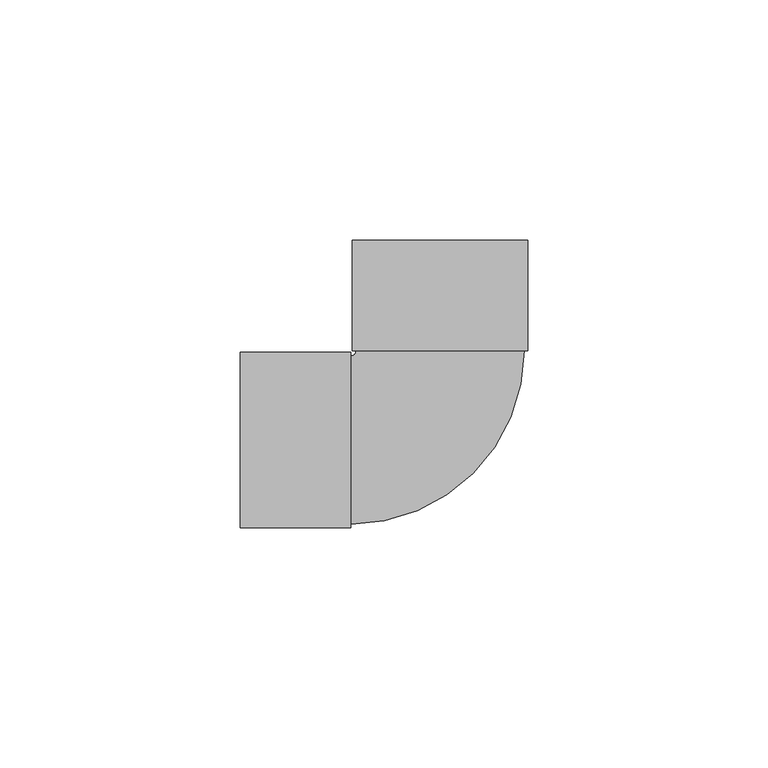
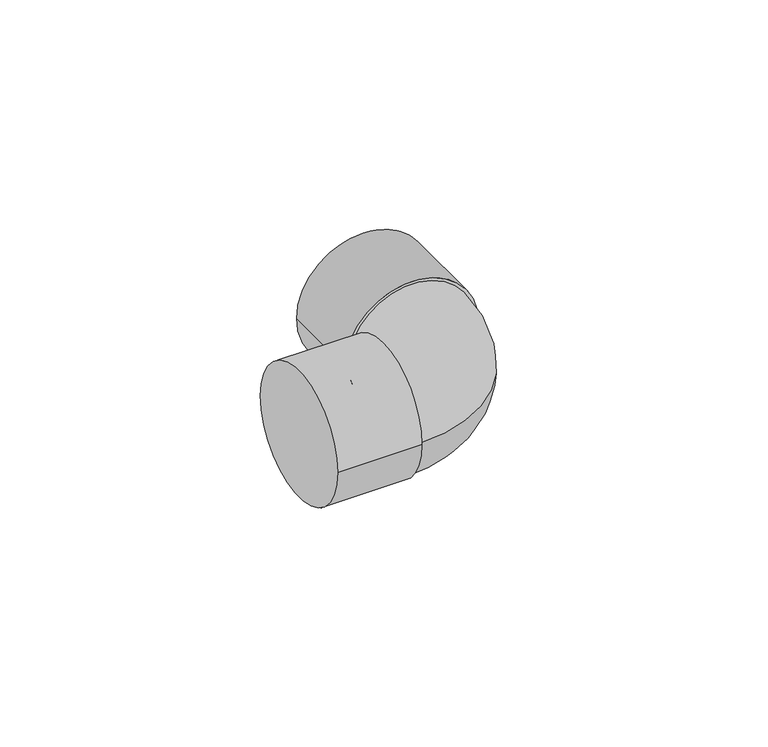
"""IFC4 building model written with IfcOpenShell, lengths in millimetres: pipe fitting geometry, Cotovelo - Soldado - CU : Padrão."""

from ifc_helpers import new_model, si_unit, point, frame, origin, place, context, project, spatial, circle_curve, ellipse_curve, trimmed, source, transform, mapped, element, save
from ifc_brep_helpers import plane_surface, cylinder_surface, revolved_surface, advanced_brep


def pipe_fitting_63a2771b(model_context):
    return source(origin(), model_context, "Body", "AdvancedBrep", [
        advanced_brep(
        [(-17.5006602, 18.5993788, 0.0), (-18.6, 17.5, 0.0), (-18.6, -17.5, 0.0), (17.4993398, 18.6006211, 0.0), (-41.6, -18.28, 0.0), (-41.6, 18.28, 0.0), (-18.6, -18.28, 0.0), (-18.6, 18.28, 0.0), (-18.2814765, 41.5993511, 0.0), (18.2785234, 41.6006488, 0.0), (-18.2806602, 18.5993512, 0.0), (18.2793398, 18.6006488, 0.0)],
        [
            (0, 1, circle_curve(frame((-18.6, 18.5993398, 0.0), z_axis=(0.0, 0.0, -1.0), x_axis=(0.0, -1.0, 0.0)), 1.0993398)),
            (1, 2, circle_curve(frame((-18.6, 0.0, 0.0), z_axis=(1.0, 0.0, 0.0), x_axis=(0.0, 1.0, 0.0)), 17.5)),
            (2, 3, circle_curve(frame((-18.6, 18.5993398, 0.0), z_axis=(0.0, 0.0, 1.0), x_axis=(0.0, -1.0, 0.0)), 36.0993398)),
            (3, 0, circle_curve(frame((-0.0006602, 18.6, 0.0), z_axis=(3.549404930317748e-05, -0.9999999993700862, 0.0), x_axis=(-0.9999999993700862, -3.549404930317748e-05, 0.0)), 17.5)),
            (0, 3, circle_curve(frame((-0.0006602, 18.6, 0.0), z_axis=(3.549404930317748e-05, -0.9999999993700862, 0.0), x_axis=(-0.9999999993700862, -3.549404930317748e-05, 0.0)), 17.5)),
            (2, 1, circle_curve(frame((-18.6, 0.0, 0.0), z_axis=(1.0, 0.0, 0.0), x_axis=(0.0, 1.0, 0.0)), 17.5)),
            (4, 5, circle_curve(frame((-41.6, 0.0, 0.0), z_axis=(-1.0, 0.0, 0.0), x_axis=(0.0, 1.0, 0.0)), 18.28)),
            (5, 4, circle_curve(frame((-41.6, 0.0, 0.0), z_axis=(-1.0, 0.0, 0.0), x_axis=(0.0, 1.0, 0.0)), 18.28)),
            (6, 7, circle_curve(frame((-18.6, 0.0, 0.0), z_axis=(1.0, 0.0, 0.0), x_axis=(0.0, 1.0, 0.0)), 18.28)),
            (7, 6, circle_curve(frame((-18.6, 0.0, 0.0), z_axis=(1.0, 0.0, 0.0), x_axis=(0.0, 1.0, 0.0)), 18.28)),
            (4, 6),
            (7, 5),
            (8, 9, circle_curve(frame((-0.0014766, 41.6, 0.0), z_axis=(-3.549404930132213e-05, 0.9999999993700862, 0.0), x_axis=(0.9999999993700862, 3.549404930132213e-05, 0.0)), 18.28)),
            (9, 8, circle_curve(frame((-0.0014766, 41.6, 0.0), z_axis=(-3.549404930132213e-05, 0.9999999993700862, 0.0), x_axis=(0.9999999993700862, 3.549404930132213e-05, 0.0)), 18.28)),
            (10, 11, circle_curve(frame((-0.0006602, 18.6, 0.0), z_axis=(3.549404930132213e-05, -0.9999999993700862, 0.0), x_axis=(0.9999999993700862, 3.549404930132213e-05, 0.0)), 18.28)),
            (11, 10, circle_curve(frame((-0.0006602, 18.6, 0.0), z_axis=(3.549404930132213e-05, -0.9999999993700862, 0.0), x_axis=(0.9999999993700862, 3.549404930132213e-05, 0.0)), 18.28)),
            (8, 10),
            (11, 9),
        ],
        [
            revolved_surface(trimmed(ellipse_curve(frame((-18.6, 0.0, 0.0), z_axis=(-1.0, 0.0, 0.0), x_axis=(0.0, 1.0, 0.0)), 17.5, 17.5), [point((-18.6, -17.5, 0.0))], [point((-18.6, 17.5, 0.0))], True, "CARTESIAN"), (-18.6, 18.5993398, 0.0), (0.0, 0.0, 1.0)),
            revolved_surface(trimmed(ellipse_curve(frame((-18.6, 0.0, 0.0), z_axis=(-1.0, 0.0, 0.0), x_axis=(0.0, 1.0, 0.0)), 17.5, 17.5), [point((-18.6, 17.5, 0.0))], [point((-18.6, -17.5, 0.0))], True, "CARTESIAN"), (-18.6, 18.5993398, 0.0), (0.0, 0.0, 1.0)),
            plane_surface(frame((-41.6, 0.0, 0.0), z_axis=(-1.0, 0.0, 0.0), x_axis=(0.0, 0.0, 1.0))),
            plane_surface(frame((-18.6, 0.0, 0.0), z_axis=(1.0, 0.0, 0.0), x_axis=(0.0, 0.0, 1.0))),
            cylinder_surface(frame((-41.6, 0.0, 0.0), z_axis=(-1.0, 0.0, 0.0), x_axis=(0.0, 1.0, 0.0)), 18.28),
            plane_surface(frame((-0.0014766, 41.6, 0.0), z_axis=(-3.549404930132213e-05, 0.9999999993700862, 0.0), x_axis=(0.0, 0.0, 1.0))),
            plane_surface(frame((-0.0006602, 18.6, 0.0), z_axis=(3.549404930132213e-05, -0.9999999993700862, 0.0), x_axis=(0.0, 0.0, 1.0))),
            cylinder_surface(frame((-0.0014766, 41.6, 0.0), z_axis=(-3.549404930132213e-05, 0.9999999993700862, 0.0), x_axis=(0.9999999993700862, 3.549404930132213e-05, 0.0)), 18.28),
        ],
        [
            (0, [[1, 2, 3, 4]]),
            (1, [[-1, 5, -3, 6]]),
            (2, [[7, 8]]),
            (3, [[9, 10], [-2, -6]]),
            (4, [[-7, 11, -10, 12]]),
            (4, [[-8, -12, -9, -11]]),
            (5, [[13, 14]]),
            (6, [[15, 16], [-4, -5]]),
            (7, [[-13, 17, -16, 18]]),
            (7, [[-14, -18, -15, -17]]),
        ],
    ),
    ])


if __name__ == "__main__":
    model = new_model("IFC4")
    model_context = context("Model", 3, world=origin())
    ifc_project = project(units=[si_unit("LENGTHUNIT", "METRE", prefix="MILLI")], contexts=[model_context])
    site = spatial("IfcSite", under=ifc_project)
    building = spatial("IfcBuilding", under=site)
    placement = place(None, origin())
    pipe_fitting_shape = pipe_fitting_63a2771b(model_context)
    element("IfcPipeFitting", 1, ObjectType="Cotovelo - Soldado - CU : Padrão", at=placement, inside=building, context=model_context, shape_type="MappedRepresentation", body=[
        mapped(pipe_fitting_shape, transform((0.0, 0.0, 0.0), x_axis=(1.0, 0.0, 0.0), y_axis=(0.0, 1.0, 0.0), z_axis=(0.0, 0.0, 1.0))),
    ])
    save(model, "model.ifc")
